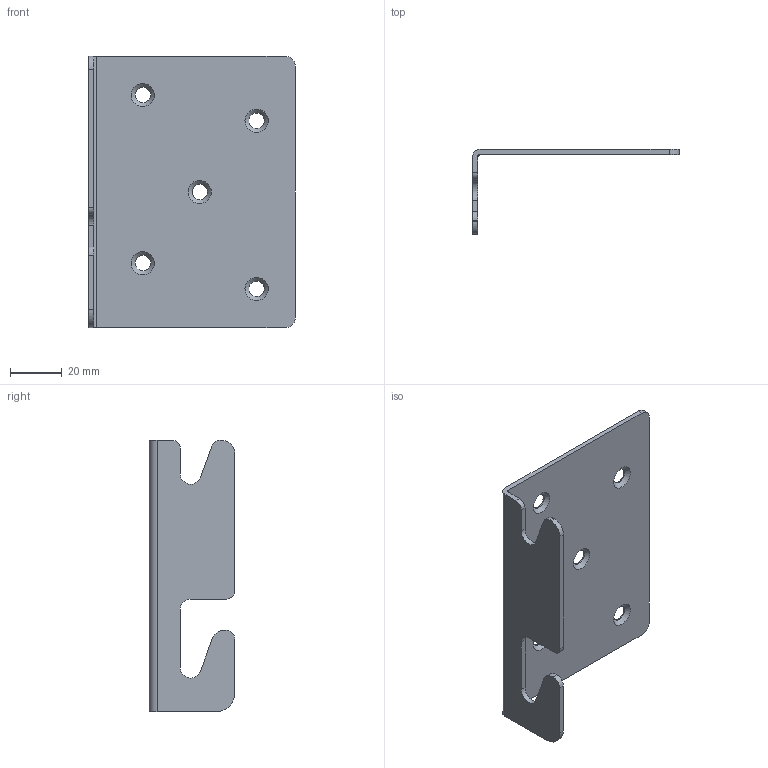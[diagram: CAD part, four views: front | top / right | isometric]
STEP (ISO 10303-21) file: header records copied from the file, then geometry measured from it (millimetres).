
FILE_DESCRIPTION(/* description */ ('ベッド金具F-L'),/* implementation_level */ '2;1');
FILE_NAME(/* name */ 'E302-A01.step',/* time_stamp */ '2026-04-08T11:01:17+09:00',/* author */ (''),/* organization */ (''),/* preprocessor_version */ 'ST-DEVELOPER v20.1',/* originating_system */ 'Autodesk Translation Framework v14.24.0.0',/* authorisation */ '');
FILE_SCHEMA (('AUTOMOTIVE_DESIGN { 1 0 10303 214 3 1 1 }'));
Length unit declared in the file: millimetre
Products named in the file (1): 2026-04-07-11-37-18-866
Bounding box: 80 x 33 x 105 mm (x, y, z)
Volume: 21465.1 mm3; surface area: 22733.3 mm2
Topology: 1 solids, 1 shells, 40 faces, 109 edges, 71 vertices
Faces by surface type: cylinder 19, plane 16, cone 5
Full cylindrical faces by diameter (mm): 6 x5
Entity records: 1437 total; most frequent: DIRECTION 234, CARTESIAN_POINT 221, ORIENTED_EDGE 218, EDGE_CURVE 109, AXIS2_PLACEMENT_3D 84, VERTEX_POINT 71, LINE 66, VECTOR 66
